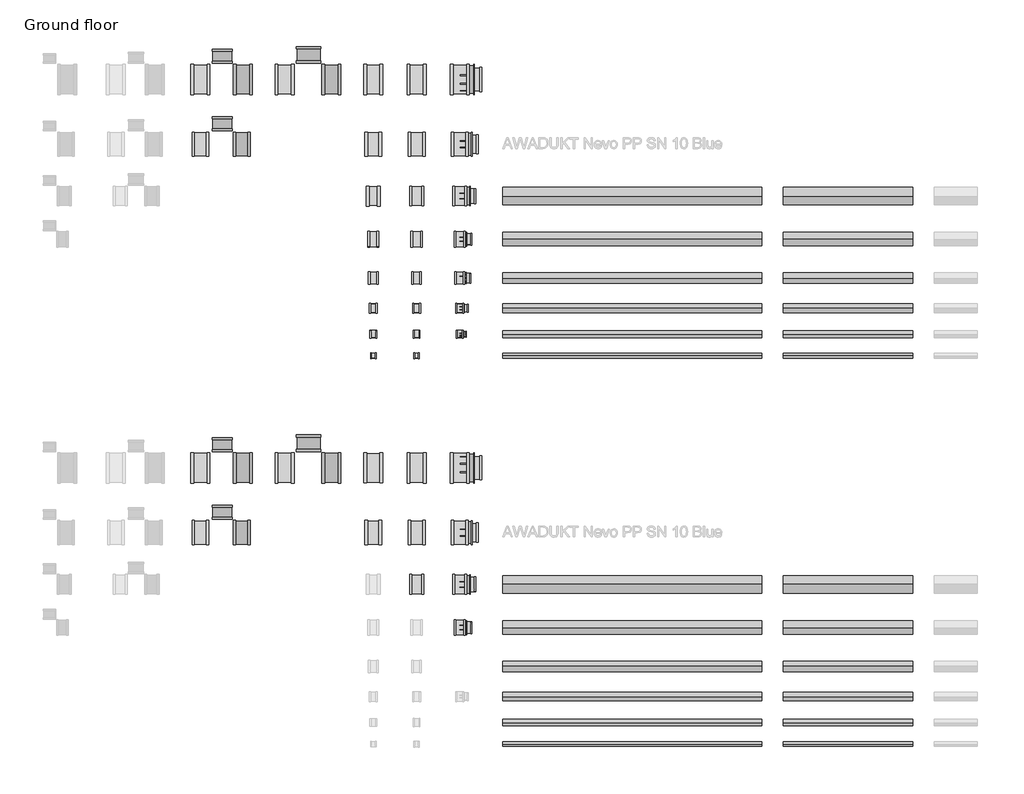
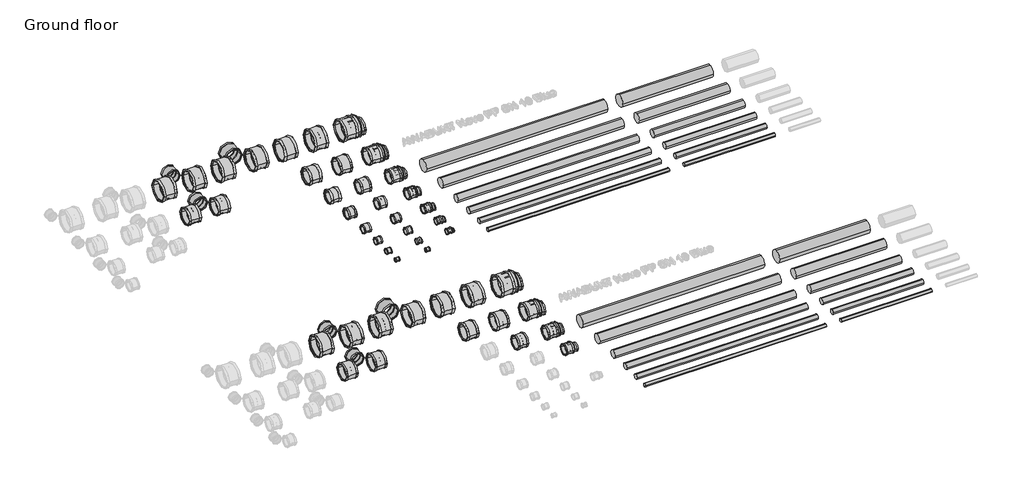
# One storey, part 5 of 14: 61 pipe fittings, 24 pipe segments.
"""IFC4 building model written with IfcOpenShell, lengths in millimetres."""

from ifc_helpers import new_model, si_unit, point, frame, frame_2d, origin, origin_2d, place, context, project, spatial, circle_curve, trimmed, segment, composite_curve, outline, extrude, transform, mapped, element, save
from components import pipe_fitting_e5a81f0f, pipe_fitting_366f8f33, pipe_fitting_9bc79c39, pipe_fitting_2c23b5e5, pipe_fitting_3dc9645f, pipe_fitting_b5a722ff, pipe_fitting_a818c1c7, blue_2b39e290, blue_a7021721, blue_93814ad8, blue_b31ea3b4, blue_9578d6e9, blue_be33dc46, blue_01f449b1, blue_d79e372c, blue_eca1b971, blue_b5fe305e, blue_81cd2d72, blue_9a590d53, blue_271a95f6, orange_5b8476dd, orange_85c0008d, pipe_fitting_0ebad727

model = new_model("IFC4")

# Units and contexts
model_context = context("Model", 3, world=origin())
ifc_project = project(units=[si_unit("LENGTHUNIT", "METRE", prefix="MILLI")], contexts=[model_context])

# Site, building, storey
site = spatial("IfcSite", under=ifc_project)
building = spatial("IfcBuilding", under=site)
storey = spatial("IfcBuildingStorey", under=building, Name="Ground floor", Elevation=0.0)

# Pipe fittings
placement = place(None, origin())
pipe_fitting_shape = pipe_fitting_e5a81f0f(model_context)
element("IfcPipeFitting", 1, ObjectType="AWADUKT PP Union DSM : Orange No PID", at=placement, inside=storey, context=model_context, shape_type="MappedRepresentation", body=[
    mapped(pipe_fitting_shape, transform((70200.0, 11700.0, 0.0), x_axis=(1.0, 0.0, 0.0), y_axis=(0.0, 1.0, 0.0), z_axis=(0.0, 0.0, 1.0))),
])
pipe_fitting_2_shape = pipe_fitting_366f8f33(model_context)
element("IfcPipeFitting", 2, ObjectType="AWADUKT PP Union DSM : Blue No PID", at=placement, inside=storey, context=model_context, shape_type="MappedRepresentation", body=[
    mapped(pipe_fitting_2_shape, transform((64189.0, 6400.0, 0.0), x_axis=(1.0, 0.0, 0.0), y_axis=(0.0, 1.0, 0.0), z_axis=(0.0, 0.0, 1.0))),
])
element("IfcPipeFitting", 3, ObjectType="AWADUKT PP Union DSM : Blue No PID", at=placement, inside=storey, context=model_context, shape_type="MappedRepresentation", body=[
    mapped(pipe_fitting_2_shape, transform((66139.0, 6400.0, 0.0), x_axis=(1.0, 0.0, 0.0), y_axis=(0.0, 1.0, 0.0), z_axis=(0.0, 0.0, 1.0))),
])
element("IfcPipeFitting", 4, ObjectType="AWADUKT PP Union DSM : Blue No PID", at=placement, inside=storey, context=model_context, shape_type="MappedRepresentation", body=[
    mapped(pipe_fitting_2_shape, transform((65186.0, 6400.0, 0.0), x_axis=(-1.0, 0.0, 0.0), y_axis=(0.0, -1.0, 0.0), z_axis=(0.0, 0.0, 1.0))),
])
element("IfcPipeFitting", 5, ObjectType="AWADUKT PP Union DSM : Blue No PID", at=placement, inside=storey, context=model_context, shape_type="MappedRepresentation", body=[
    mapped(pipe_fitting_2_shape, transform((67236.0, 6400.0, 0.0), x_axis=(-1.0, 0.0, 0.0), y_axis=(0.0, -1.0, 0.0), z_axis=(0.0, 0.0, 1.0))),
])
element("IfcPipeFitting", 6, ObjectType="AWADUKT PP Union DSM : Blue No PID", at=placement, inside=storey, context=model_context, shape_type="MappedRepresentation", body=[
    mapped(pipe_fitting_2_shape, transform((70200.0, 6400.0, 0.0), x_axis=(1.0, 0.0, 0.0), y_axis=(0.0, 1.0, 0.0), z_axis=(0.0, 0.0, 1.0))),
])
element("IfcPipeFitting", 7, ObjectType="AWADUKT PP Union DSM : Blue No PID", at=placement, inside=storey, context=model_context, shape_type="MappedRepresentation", body=[
    mapped(pipe_fitting_shape, transform((70200.0, 2700.0, 0.0), x_axis=(1.0, 0.0, 0.0), y_axis=(0.0, 1.0, 0.0), z_axis=(0.0, 0.0, 1.0))),
])
pipe_fitting_3_shape = pipe_fitting_9bc79c39(model_context)
element("IfcPipeFitting", 8, ObjectType="AWADUKT PP Union DSM : Blue No PID", at=placement, inside=storey, context=model_context, shape_type="MappedRepresentation", body=[
    mapped(pipe_fitting_3_shape, transform((64700.0, 5370.0, 0.0), x_axis=(0.0, 1.0, 0.0), y_axis=(-1.0, 0.0, 0.0), z_axis=(0.0, 0.0, 1.0))),
])
element("IfcPipeFitting", 9, ObjectType="AWADUKT PP Union DSM : Blue No PID", at=placement, inside=storey, context=model_context, shape_type="MappedRepresentation", body=[
    mapped(pipe_fitting_3_shape, transform((64700.0, 6935.0, 0.0), x_axis=(0.0, 1.0, 0.0), y_axis=(-1.0, 0.0, 0.0), z_axis=(0.0, 0.0, 1.0))),
])
element("IfcPipeFitting", 10, ObjectType="AWADUKT PP Union DSM : Blue No PID", at=placement, inside=storey, context=model_context, shape_type="MappedRepresentation", body=[
    mapped(pipe_fitting_3_shape, transform((70200.0, 3700.0, 0.0), x_axis=(1.0, 0.0, 0.0), y_axis=(0.0, 1.0, 0.0), z_axis=(0.0, 0.0, 1.0))),
])
pipe_fitting_4_shape = pipe_fitting_2c23b5e5(model_context)
element("IfcPipeFitting", 11, ObjectType="AWADUKT PP Union DSM : Blue No PID", at=placement, inside=storey, context=model_context, shape_type="MappedRepresentation", body=[
    mapped(pipe_fitting_4_shape, transform((64189.0, 4900.0, 0.0), x_axis=(1.0, 0.0, 0.0), y_axis=(0.0, 1.0, 0.0), z_axis=(0.0, 0.0, 1.0))),
])
element("IfcPipeFitting", 12, ObjectType="AWADUKT PP Union DSM : Blue No PID", at=placement, inside=storey, context=model_context, shape_type="MappedRepresentation", body=[
    mapped(pipe_fitting_4_shape, transform((65160.0, 4900.0, 0.0), x_axis=(-1.0, 0.0, 0.0), y_axis=(0.0, -1.0, 0.0), z_axis=(0.0, 0.0, 1.0))),
])
element("IfcPipeFitting", 13, ObjectType="AWADUKT PP Union DSM : Blue No PID", at=placement, inside=storey, context=model_context, shape_type="MappedRepresentation", body=[
    mapped(pipe_fitting_4_shape, transform((66700.0, 6964.0, 0.0), x_axis=(0.0, 1.0, 0.0), y_axis=(-1.0, 0.0, 0.0), z_axis=(0.0, 0.0, 1.0))),
])
element("IfcPipeFitting", 14, ObjectType="AWADUKT PP Union DSM : Blue No PID", at=placement, inside=storey, context=model_context, shape_type="MappedRepresentation", body=[
    mapped(pipe_fitting_4_shape, transform((70200.0, 4900.0, 0.0), x_axis=(1.0, 0.0, 0.0), y_axis=(0.0, 1.0, 0.0), z_axis=(0.0, 0.0, 1.0))),
])
pipe_fitting_5_shape = pipe_fitting_3dc9645f(model_context)
element("IfcPipeFitting", 15, ObjectType="AWADUKT PP Union DSM : Orange No PID", at=placement, inside=storey, context=model_context, shape_type="MappedRepresentation", body=[
    mapped(pipe_fitting_5_shape, transform((70200.0, 9500.0, 0.0), x_axis=(1.0, 0.0, 0.0), y_axis=(0.0, 1.0, 0.0), z_axis=(0.0, 0.0, 1.0))),
])
pipe_fitting_6_shape = pipe_fitting_b5a722ff(model_context)
element("IfcPipeFitting", 16, ObjectType="AWADUKT PP Union DSM : Orange No PID", at=placement, inside=storey, context=model_context, shape_type="MappedRepresentation", body=[
    mapped(pipe_fitting_6_shape, transform((70200.0, 10100.0, 0.0), x_axis=(1.0, 0.0, 0.0), y_axis=(0.0, 1.0, 0.0), z_axis=(0.0, 0.0, 1.0))),
])
pipe_fitting_7_shape = pipe_fitting_a818c1c7(model_context)
element("IfcPipeFitting", 17, ObjectType="AWADUKT PP Union DSM : Orange No PID", at=placement, inside=storey, context=model_context, shape_type="MappedRepresentation", body=[
    mapped(pipe_fitting_7_shape, transform((70200.0, 10800.0, 0.0), x_axis=(1.0, 0.0, 0.0), y_axis=(0.0, 1.0, 0.0), z_axis=(0.0, 0.0, 1.0))),
])
element("IfcPipeFitting", 18, ObjectType="AWADUKT PP Union DSM : Orange No PID", at=placement, inside=storey, context=model_context, shape_type="MappedRepresentation", body=[
    mapped(pipe_fitting_3_shape, transform((64700.0, 14370.0, 0.0), x_axis=(0.0, 1.0, 0.0), y_axis=(-1.0, 0.0, 0.0), z_axis=(0.0, 0.0, 1.0))),
])
element("IfcPipeFitting", 19, ObjectType="AWADUKT PP Union DSM : Orange No PID", at=placement, inside=storey, context=model_context, shape_type="MappedRepresentation", body=[
    mapped(pipe_fitting_3_shape, transform((64700.0, 15935.0, 0.0), x_axis=(0.0, 1.0, 0.0), y_axis=(-1.0, 0.0, 0.0), z_axis=(0.0, 0.0, 1.0))),
])
element("IfcPipeFitting", 20, ObjectType="AWADUKT PP Union DSM : Orange No PID", at=placement, inside=storey, context=model_context, shape_type="MappedRepresentation", body=[
    mapped(pipe_fitting_3_shape, transform((70200.0, 12700.0, 0.0), x_axis=(1.0, 0.0, 0.0), y_axis=(0.0, 1.0, 0.0), z_axis=(0.0, 0.0, 1.0))),
])
element("IfcPipeFitting", 21, ObjectType="AWADUKT PP Union DSM : Orange No PID", at=placement, inside=storey, context=model_context, shape_type="MappedRepresentation", body=[
    mapped(pipe_fitting_4_shape, transform((64189.0, 13900.0, 0.0), x_axis=(1.0, 0.0, 0.0), y_axis=(0.0, 1.0, 0.0), z_axis=(0.0, 0.0, 1.0))),
])
element("IfcPipeFitting", 22, ObjectType="AWADUKT PP Union DSM : Orange No PID", at=placement, inside=storey, context=model_context, shape_type="MappedRepresentation", body=[
    mapped(pipe_fitting_4_shape, transform((65160.0, 13900.0, 0.0), x_axis=(-1.0, 0.0, 0.0), y_axis=(0.0, -1.0, 0.0), z_axis=(0.0, 0.0, 1.0))),
])
element("IfcPipeFitting", 23, ObjectType="AWADUKT PP Union DSM : Orange No PID", at=placement, inside=storey, context=model_context, shape_type="MappedRepresentation", body=[
    mapped(pipe_fitting_4_shape, transform((66700.0, 15964.0, 0.0), x_axis=(0.0, 1.0, 0.0), y_axis=(-1.0, 0.0, 0.0), z_axis=(0.0, 0.0, 1.0))),
])
element("IfcPipeFitting", 24, ObjectType="AWADUKT PP Union DSM : Orange No PID", at=placement, inside=storey, context=model_context, shape_type="MappedRepresentation", body=[
    mapped(pipe_fitting_4_shape, transform((70200.0, 13900.0, 0.0), x_axis=(1.0, 0.0, 0.0), y_axis=(0.0, 1.0, 0.0), z_axis=(0.0, 0.0, 1.0))),
])
element("IfcPipeFitting", 25, ObjectType="AWADUKT PP Union DSM : Orange No PID", at=placement, inside=storey, context=model_context, shape_type="MappedRepresentation", body=[
    mapped(pipe_fitting_2_shape, transform((64189.0, 15400.0, 0.0), x_axis=(1.0, 0.0, 0.0), y_axis=(0.0, 1.0, 0.0), z_axis=(0.0, 0.0, 1.0))),
])
element("IfcPipeFitting", 26, ObjectType="AWADUKT PP Union DSM : Orange No PID", at=placement, inside=storey, context=model_context, shape_type="MappedRepresentation", body=[
    mapped(pipe_fitting_2_shape, transform((66139.0, 15400.0, 0.0), x_axis=(1.0, 0.0, 0.0), y_axis=(0.0, 1.0, 0.0), z_axis=(0.0, 0.0, 1.0))),
])
element("IfcPipeFitting", 27, ObjectType="AWADUKT PP Union DSM : Orange No PID", at=placement, inside=storey, context=model_context, shape_type="MappedRepresentation", body=[
    mapped(pipe_fitting_2_shape, transform((65186.0, 15400.0, 0.0), x_axis=(-1.0, 0.0, 0.0), y_axis=(0.0, -1.0, 0.0), z_axis=(0.0, 0.0, 1.0))),
])
element("IfcPipeFitting", 28, ObjectType="AWADUKT PP Union DSM : Orange No PID", at=placement, inside=storey, context=model_context, shape_type="MappedRepresentation", body=[
    mapped(pipe_fitting_2_shape, transform((67236.0, 15400.0, 0.0), x_axis=(-1.0, 0.0, 0.0), y_axis=(0.0, -1.0, 0.0), z_axis=(0.0, 0.0, 1.0))),
])
element("IfcPipeFitting", 29, ObjectType="AWADUKT PP Union DSM : Orange No PID", at=placement, inside=storey, context=model_context, shape_type="MappedRepresentation", body=[
    mapped(pipe_fitting_2_shape, transform((70200.0, 15400.0, 0.0), x_axis=(1.0, 0.0, 0.0), y_axis=(0.0, 1.0, 0.0), z_axis=(0.0, 0.0, 1.0))),
])
element("IfcPipeFitting", 30, ObjectType="AWADUKT PP Union DSM : Blue", at=placement, inside=storey, context=model_context, shape_type="MappedRepresentation", body=[
    mapped(pipe_fitting_2_shape, transform((69200.0, 6400.0, 0.0), x_axis=(1.0, 0.0, 0.0), y_axis=(0.0, 1.0, 0.0), z_axis=(0.0, 0.0, 1.0))),
])
blue_shape = blue_2b39e290(model_context)
element("IfcPipeFitting", 31, ObjectType="AWADUKT PP Union USM : Blue", at=placement, inside=storey, context=model_context, shape_type="MappedRepresentation", body=[
    mapped(blue_shape, transform((68200.0, 6400.0, 0.0), x_axis=(1.0, 0.0, 0.0), y_axis=(0.0, 1.0, 0.0), z_axis=(0.0, 0.0, 1.0))),
])
blue_2_shape = blue_a7021721(model_context)
element("IfcPipeFitting", 32, ObjectType="AWADUKT PP Union USM : Blue", at=placement, inside=storey, context=model_context, shape_type="MappedRepresentation", body=[
    mapped(blue_2_shape, transform((68200.0, 4900.0, 0.0), x_axis=(1.0, 0.0, 0.0), y_axis=(0.0, 1.0, 0.0), z_axis=(0.0, 0.0, 1.0))),
])
blue_3_shape = blue_93814ad8(model_context)
element("IfcPipeFitting", 33, ObjectType="AWADUKT PP Transition : Blue", at=placement, inside=storey, context=model_context, shape_type="MappedRepresentation", body=[
    mapped(blue_3_shape, transform((70200.0, 2700.0, 0.0), x_axis=(1.0, 0.0, 0.0), y_axis=(0.0, 1.0, 0.0), z_axis=(0.0, 0.0, 1.0))),
])
blue_4_shape = blue_b31ea3b4(model_context)
element("IfcPipeFitting", 34, ObjectType="AWADUKT PP Transition : Blue", at=placement, inside=storey, context=model_context, shape_type="MappedRepresentation", body=[
    mapped(blue_4_shape, transform((70200.0, 3700.0, 0.0), x_axis=(1.0, 0.0, 0.0), y_axis=(0.0, 1.0, 0.0), z_axis=(0.0, 0.0, 1.0))),
])
blue_5_shape = blue_9578d6e9(model_context)
element("IfcPipeFitting", 35, ObjectType="AWADUKT PP Transition : Blue", at=placement, inside=storey, context=model_context, shape_type="MappedRepresentation", body=[
    mapped(blue_5_shape, transform((70200.0, 4900.0, 0.0), x_axis=(1.0, 0.0, 0.0), y_axis=(0.0, 1.0, 0.0), z_axis=(0.0, 0.0, 1.0))),
])
blue_6_shape = blue_be33dc46(model_context)
element("IfcPipeFitting", 36, ObjectType="AWADUKT PP Transition : Blue", at=placement, inside=storey, context=model_context, shape_type="MappedRepresentation", body=[
    mapped(blue_6_shape, transform((70200.0, 6400.0, 0.0), x_axis=(1.0, 0.0, 0.0), y_axis=(0.0, 1.0, 0.0), z_axis=(0.0, 0.0, 1.0))),
])
element("IfcPipeFitting", 37, ObjectType="AWADUKT PP Union DSM : Blue", at=placement, inside=storey, context=model_context, shape_type="MappedRepresentation", body=[
    mapped(pipe_fitting_3_shape, transform((69200.0, 3700.0, 0.0), x_axis=(1.0, 0.0, 0.0), y_axis=(0.0, 1.0, 0.0), z_axis=(0.0, 0.0, 1.0))),
])
element("IfcPipeFitting", 38, ObjectType="AWADUKT PP Union DSM : Blue", at=placement, inside=storey, context=model_context, shape_type="MappedRepresentation", body=[
    mapped(pipe_fitting_4_shape, transform((69200.0, 4900.0, 0.0), x_axis=(1.0, 0.0, 0.0), y_axis=(0.0, 1.0, 0.0), z_axis=(0.0, 0.0, 1.0))),
])
element("IfcPipeFitting", 39, ObjectType="AWADUKT PP Union DSM : Orange", at=placement, inside=storey, context=model_context, shape_type="MappedRepresentation", body=[
    mapped(pipe_fitting_2_shape, transform((69200.0, 15400.0, 0.0), x_axis=(1.0, 0.0, 0.0), y_axis=(0.0, 1.0, 0.0), z_axis=(0.0, 0.0, 1.0))),
])
element("IfcPipeFitting", 40, ObjectType="AWADUKT PP Transition : Orange", at=placement, inside=storey, context=model_context, shape_type="MappedRepresentation", body=[
    mapped(blue_3_shape, transform((70200.0, 11700.0, 0.0), x_axis=(1.0, 0.0, 0.0), y_axis=(0.0, 1.0, 0.0), z_axis=(0.0, 0.0, 1.0))),
])
element("IfcPipeFitting", 41, ObjectType="AWADUKT PP Union USM : Orange", at=placement, inside=storey, context=model_context, shape_type="MappedRepresentation", body=[
    mapped(blue_shape, transform((68200.0, 15400.0, 0.0), x_axis=(1.0, 0.0, 0.0), y_axis=(0.0, 1.0, 0.0), z_axis=(0.0, 0.0, 1.0))),
])
blue_7_shape = blue_01f449b1(model_context)
element("IfcPipeFitting", 42, ObjectType="AWADUKT PP Union USM : Orange", at=placement, inside=storey, context=model_context, shape_type="MappedRepresentation", body=[
    mapped(blue_7_shape, transform((68200.0, 9000.0, 0.0), x_axis=(1.0, 0.0, 0.0), y_axis=(0.0, 1.0, 0.0), z_axis=(0.0, 0.0, 1.0))),
])
blue_8_shape = blue_d79e372c(model_context)
element("IfcPipeFitting", 43, ObjectType="AWADUKT PP Union USM : Orange", at=placement, inside=storey, context=model_context, shape_type="MappedRepresentation", body=[
    mapped(blue_8_shape, transform((68200.0, 10100.0, 0.0), x_axis=(1.0, 0.0, 0.0), y_axis=(0.0, 1.0, 0.0), z_axis=(0.0, 0.0, 1.0))),
])
blue_9_shape = blue_eca1b971(model_context)
element("IfcPipeFitting", 44, ObjectType="AWADUKT PP Union USM : Orange", at=placement, inside=storey, context=model_context, shape_type="MappedRepresentation", body=[
    mapped(blue_9_shape, transform((68200.0, 10800.0, 0.0), x_axis=(1.0, 0.0, 0.0), y_axis=(0.0, 1.0, 0.0), z_axis=(0.0, 0.0, 1.0))),
])
blue_10_shape = blue_b5fe305e(model_context)
element("IfcPipeFitting", 45, ObjectType="AWADUKT PP Union USM : Orange", at=placement, inside=storey, context=model_context, shape_type="MappedRepresentation", body=[
    mapped(blue_10_shape, transform((68200.0, 11700.0, 0.0), x_axis=(1.0, 0.0, 0.0), y_axis=(0.0, 1.0, 0.0), z_axis=(0.0, 0.0, 1.0))),
])
blue_11_shape = blue_81cd2d72(model_context)
element("IfcPipeFitting", 46, ObjectType="AWADUKT PP Union USM : Orange", at=placement, inside=storey, context=model_context, shape_type="MappedRepresentation", body=[
    mapped(blue_11_shape, transform((68200.0, 12700.0, 0.0), x_axis=(1.0, 0.0, 0.0), y_axis=(0.0, 1.0, 0.0), z_axis=(0.0, 0.0, 1.0))),
])
element("IfcPipeFitting", 47, ObjectType="AWADUKT PP Union USM : Orange", at=placement, inside=storey, context=model_context, shape_type="MappedRepresentation", body=[
    mapped(blue_2_shape, transform((68200.0, 13900.0, 0.0), x_axis=(1.0, 0.0, 0.0), y_axis=(0.0, 1.0, 0.0), z_axis=(0.0, 0.0, 1.0))),
])
blue_12_shape = blue_9a590d53(model_context)
element("IfcPipeFitting", 48, ObjectType="AWADUKT PP Union USM : Orange", at=placement, inside=storey, context=model_context, shape_type="MappedRepresentation", body=[
    mapped(blue_12_shape, transform((68200.0, 9500.0, 0.0), x_axis=(1.0, 0.0, 0.0), y_axis=(0.0, 1.0, 0.0), z_axis=(0.0, 0.0, 1.0))),
])
blue_13_shape = blue_271a95f6(model_context)
element("IfcPipeFitting", 49, ObjectType="AWADUKT PP Transition : Orange", at=placement, inside=storey, context=model_context, shape_type="MappedRepresentation", body=[
    mapped(blue_13_shape, transform((70200.0, 10100.0, 0.0), x_axis=(1.0, 0.0, 0.0), y_axis=(0.0, 1.0, 0.0), z_axis=(0.0, 0.0, 1.0))),
])
orange_shape = orange_5b8476dd(model_context)
element("IfcPipeFitting", 50, ObjectType="AWADUKT PP Transition : Orange", at=placement, inside=storey, context=model_context, shape_type="MappedRepresentation", body=[
    mapped(orange_shape, transform((70200.0, 10800.0, 0.0), x_axis=(1.0, 0.0, 0.0), y_axis=(0.0, 1.0, 0.0), z_axis=(0.0, 0.0, 1.0))),
])
element("IfcPipeFitting", 51, ObjectType="AWADUKT PP Transition : Orange", at=placement, inside=storey, context=model_context, shape_type="MappedRepresentation", body=[
    mapped(blue_4_shape, transform((70200.0, 12700.0, 0.0), x_axis=(1.0, 0.0, 0.0), y_axis=(0.0, 1.0, 0.0), z_axis=(0.0, 0.0, 1.0))),
])
element("IfcPipeFitting", 52, ObjectType="AWADUKT PP Transition : Orange", at=placement, inside=storey, context=model_context, shape_type="MappedRepresentation", body=[
    mapped(blue_5_shape, transform((70200.0, 13900.0, 0.0), x_axis=(1.0, 0.0, 0.0), y_axis=(0.0, 1.0, 0.0), z_axis=(0.0, 0.0, 1.0))),
])
element("IfcPipeFitting", 53, ObjectType="AWADUKT PP Transition : Orange", at=placement, inside=storey, context=model_context, shape_type="MappedRepresentation", body=[
    mapped(blue_6_shape, transform((70200.0, 15400.0, 0.0), x_axis=(1.0, 0.0, 0.0), y_axis=(0.0, 1.0, 0.0), z_axis=(0.0, 0.0, 1.0))),
])
orange_2_shape = orange_85c0008d(model_context)
element("IfcPipeFitting", 54, ObjectType="AWADUKT PP Transition : Orange", at=placement, inside=storey, context=model_context, shape_type="MappedRepresentation", body=[
    mapped(orange_2_shape, transform((70200.0, 9500.0, 0.0), x_axis=(1.0, 0.0, 0.0), y_axis=(0.0, 1.0, 0.0), z_axis=(0.0, 0.0, 1.0))),
])
pipe_fitting_8_shape = pipe_fitting_0ebad727(model_context)
element("IfcPipeFitting", 55, ObjectType="AWADUKT PP Union DSM : Orange", at=placement, inside=storey, context=model_context, shape_type="MappedRepresentation", body=[
    mapped(pipe_fitting_8_shape, transform((69200.0, 9000.0, 0.0), x_axis=(1.0, 0.0, 0.0), y_axis=(0.0, 1.0, 0.0), z_axis=(0.0, 0.0, 1.0))),
])
element("IfcPipeFitting", 56, ObjectType="AWADUKT PP Union DSM : Orange", at=placement, inside=storey, context=model_context, shape_type="MappedRepresentation", body=[
    mapped(pipe_fitting_6_shape, transform((69200.0, 10100.0, 0.0), x_axis=(1.0, 0.0, 0.0), y_axis=(0.0, 1.0, 0.0), z_axis=(0.0, 0.0, 1.0))),
])
element("IfcPipeFitting", 57, ObjectType="AWADUKT PP Union DSM : Orange", at=placement, inside=storey, context=model_context, shape_type="MappedRepresentation", body=[
    mapped(pipe_fitting_7_shape, transform((69200.0, 10800.0, 0.0), x_axis=(1.0, 0.0, 0.0), y_axis=(0.0, 1.0, 0.0), z_axis=(0.0, 0.0, 1.0))),
])
element("IfcPipeFitting", 58, ObjectType="AWADUKT PP Union DSM : Orange", at=placement, inside=storey, context=model_context, shape_type="MappedRepresentation", body=[
    mapped(pipe_fitting_shape, transform((69200.0, 11700.0, 0.0), x_axis=(1.0, 0.0, 0.0), y_axis=(0.0, 1.0, 0.0), z_axis=(0.0, 0.0, 1.0))),
])
element("IfcPipeFitting", 59, ObjectType="AWADUKT PP Union DSM : Orange", at=placement, inside=storey, context=model_context, shape_type="MappedRepresentation", body=[
    mapped(pipe_fitting_3_shape, transform((69200.0, 12700.0, 0.0), x_axis=(1.0, 0.0, 0.0), y_axis=(0.0, 1.0, 0.0), z_axis=(0.0, 0.0, 1.0))),
])
element("IfcPipeFitting", 60, ObjectType="AWADUKT PP Union DSM : Orange", at=placement, inside=storey, context=model_context, shape_type="MappedRepresentation", body=[
    mapped(pipe_fitting_4_shape, transform((69200.0, 13900.0, 0.0), x_axis=(1.0, 0.0, 0.0), y_axis=(0.0, 1.0, 0.0), z_axis=(0.0, 0.0, 1.0))),
])
element("IfcPipeFitting", 61, ObjectType="AWADUKT PP Union DSM : Orange", at=placement, inside=storey, context=model_context, shape_type="MappedRepresentation", body=[
    mapped(pipe_fitting_5_shape, transform((69200.0, 9500.0, 0.0), x_axis=(1.0, 0.0, 0.0), y_axis=(0.0, 1.0, 0.0), z_axis=(0.0, 0.0, 1.0))),
])

# Pipe segments
element("IfcPipeSegment", 62, ObjectType="AWADUKT NevoPP SN10 Blue", at=placement, inside=storey, context=model_context, shape_type="SweptSolid", body=[
    extrude(outline(composite_curve([segment(trimmed(circle_curve(origin_2d(), 55.0), [point((-55.0, 0.0))], [point((0.0, 55.0))], False, "CARTESIAN"), True, "CONTINUOUS"), segment(trimmed(circle_curve(origin_2d(), 55.0), [point((0.0, 55.0))], [point((55.0, 0.0))], False, "CARTESIAN"), True, "CONTINUOUS"), segment(trimmed(circle_curve(origin_2d(), 55.0), [point((55.0, 0.0))], [point((0.0, -55.0))], False, "CARTESIAN"), True, "CONTINUOUS"), segment(trimmed(circle_curve(origin_2d(), 55.0), [point((0.0, -55.0))], [point((-55.0, 0.0))], False, "CARTESIAN"), True, "CONTINUOUS")], self_intersect=False)), frame((71200.0, 0.0, 0.0), z_axis=(1.0, 0.0, 0.0), x_axis=(0.0, 1.0, 0.0)), (0.0, 0.0, 1.0), 6000.0),
])
element("IfcPipeSegment", 63, ObjectType="AWADUKT NevoPP SN10 Blue", at=placement, inside=storey, context=model_context, shape_type="SweptSolid", body=[
    extrude(outline(composite_curve([segment(trimmed(circle_curve(frame_2d((500.0, 0.0)), 80.0), [point((420.0, 0.0))], [point((500.0, 80.0))], False, "CARTESIAN"), True, "CONTINUOUS"), segment(trimmed(circle_curve(frame_2d((500.0, 0.0)), 80.0), [point((500.0, 80.0))], [point((580.0, 0.0))], False, "CARTESIAN"), True, "CONTINUOUS"), segment(trimmed(circle_curve(frame_2d((500.0, 0.0)), 80.0), [point((580.0, 0.0))], [point((500.0, -80.0))], False, "CARTESIAN"), True, "CONTINUOUS"), segment(trimmed(circle_curve(frame_2d((500.0, 0.0)), 80.0), [point((500.0, -80.0))], [point((420.0, 0.0))], False, "CARTESIAN"), True, "CONTINUOUS")], self_intersect=False)), frame((71200.0, 0.0, 0.0), z_axis=(1.0, 0.0, 0.0), x_axis=(0.0, 1.0, 0.0)), (0.0, 0.0, 1.0), 6000.0),
])
element("IfcPipeSegment", 64, ObjectType="AWADUKT NevoPP SN10 Blue", at=placement, inside=storey, context=model_context, shape_type="SweptSolid", body=[
    extrude(outline(composite_curve([segment(trimmed(circle_curve(frame_2d((1100.0, 0.0)), 100.0), [point((1000.0, 0.0))], [point((1100.0, 100.0))], False, "CARTESIAN"), True, "CONTINUOUS"), segment(trimmed(circle_curve(frame_2d((1100.0, 0.0)), 100.0), [point((1100.0, 100.0))], [point((1200.0, 0.0))], False, "CARTESIAN"), True, "CONTINUOUS"), segment(trimmed(circle_curve(frame_2d((1100.0, 0.0)), 100.0), [point((1200.0, 0.0))], [point((1100.0, -100.0))], False, "CARTESIAN"), True, "CONTINUOUS"), segment(trimmed(circle_curve(frame_2d((1100.0, 0.0)), 100.0), [point((1100.0, -100.0))], [point((1000.0, 0.0))], False, "CARTESIAN"), True, "CONTINUOUS")], self_intersect=False)), frame((71200.0, 0.0, 0.0), z_axis=(1.0, 0.0, 0.0), x_axis=(0.0, 1.0, 0.0)), (0.0, 0.0, 1.0), 6000.0),
])
element("IfcPipeSegment", 65, ObjectType="AWADUKT NevoPP SN10 Blue", at=placement, inside=storey, context=model_context, shape_type="SweptSolid", body=[
    extrude(outline(composite_curve([segment(trimmed(circle_curve(frame_2d((1800.0, 0.0)), 125.0), [point((1675.0, 0.0))], [point((1800.0, 125.0))], False, "CARTESIAN"), True, "CONTINUOUS"), segment(trimmed(circle_curve(frame_2d((1800.0, 0.0)), 125.0), [point((1800.0, 125.0))], [point((1925.0, 0.0))], False, "CARTESIAN"), True, "CONTINUOUS"), segment(trimmed(circle_curve(frame_2d((1800.0, 0.0)), 125.0), [point((1925.0, 0.0))], [point((1800.0, -125.0))], False, "CARTESIAN"), True, "CONTINUOUS"), segment(trimmed(circle_curve(frame_2d((1800.0, 0.0)), 125.0), [point((1800.0, -125.0))], [point((1675.0, 0.0))], False, "CARTESIAN"), True, "CONTINUOUS")], self_intersect=False)), frame((71200.0, 0.0, 0.0), z_axis=(1.0, 0.0, 0.0), x_axis=(0.0, 1.0, 0.0)), (0.0, 0.0, 1.0), 6000.0),
])
element("IfcPipeSegment", 66, ObjectType="AWADUKT NevoPP SN10 Blue", at=placement, inside=storey, context=model_context, shape_type="SweptSolid", body=[
    extrude(outline(composite_curve([segment(trimmed(circle_curve(frame_2d((2700.0, 0.0)), 157.5), [point((2542.5, 0.0))], [point((2700.0, 157.5))], False, "CARTESIAN"), True, "CONTINUOUS"), segment(trimmed(circle_curve(frame_2d((2700.0, 0.0)), 157.5), [point((2700.0, 157.5))], [point((2857.5, 0.0))], False, "CARTESIAN"), True, "CONTINUOUS"), segment(trimmed(circle_curve(frame_2d((2700.0, 0.0)), 157.5), [point((2857.5, 0.0))], [point((2700.0, -157.5))], False, "CARTESIAN"), True, "CONTINUOUS"), segment(trimmed(circle_curve(frame_2d((2700.0, 0.0)), 157.5), [point((2700.0, -157.5))], [point((2542.5, 0.0))], False, "CARTESIAN"), True, "CONTINUOUS")], self_intersect=False)), frame((71200.0, 0.0, 0.0), z_axis=(1.0, 0.0, 0.0), x_axis=(0.0, 1.0, 0.0)), (0.0, 0.0, 1.0), 6000.0),
])
element("IfcPipeSegment", 67, ObjectType="AWADUKT NevoPP SN10 Blue", at=placement, inside=storey, context=model_context, shape_type="SweptSolid", body=[
    extrude(outline(composite_curve([segment(trimmed(circle_curve(frame_2d((3700.0, 0.0)), 200.0), [point((3500.0, 0.0))], [point((3700.0, 200.0))], False, "CARTESIAN"), True, "CONTINUOUS"), segment(trimmed(circle_curve(frame_2d((3700.0, 0.0)), 200.0), [point((3700.0, 200.0))], [point((3900.0, 0.0))], False, "CARTESIAN"), True, "CONTINUOUS"), segment(trimmed(circle_curve(frame_2d((3700.0, 0.0)), 200.0), [point((3900.0, 0.0))], [point((3700.0, -200.0))], False, "CARTESIAN"), True, "CONTINUOUS"), segment(trimmed(circle_curve(frame_2d((3700.0, 0.0)), 200.0), [point((3700.0, -200.0))], [point((3500.0, 0.0))], False, "CARTESIAN"), True, "CONTINUOUS")], self_intersect=False)), frame((71200.0, 0.0, 0.0), z_axis=(1.0, 0.0, 0.0), x_axis=(0.0, 1.0, 0.0)), (0.0, 0.0, 1.0), 6000.0),
])
element("IfcPipeSegment", 68, ObjectType="AWADUKT NevoPP SN10 Blue", at=placement, inside=storey, context=model_context, shape_type="SweptSolid", body=[
    extrude(outline(composite_curve([segment(trimmed(circle_curve(origin_2d(), 55.0), [point((-55.0, 0.0))], [point((0.0, 55.0))], False, "CARTESIAN"), True, "CONTINUOUS"), segment(trimmed(circle_curve(origin_2d(), 55.0), [point((0.0, 55.0))], [point((55.0, 0.0))], False, "CARTESIAN"), True, "CONTINUOUS"), segment(trimmed(circle_curve(origin_2d(), 55.0), [point((55.0, 0.0))], [point((0.0, -55.0))], False, "CARTESIAN"), True, "CONTINUOUS"), segment(trimmed(circle_curve(origin_2d(), 55.0), [point((0.0, -55.0))], [point((-55.0, 0.0))], False, "CARTESIAN"), True, "CONTINUOUS")], self_intersect=False)), frame((77700.0, 0.0, 0.0), z_axis=(1.0, 0.0, 0.0), x_axis=(0.0, 1.0, 0.0)), (0.0, 0.0, 1.0), 3000.0),
])
element("IfcPipeSegment", 69, ObjectType="AWADUKT NevoPP SN10 Blue", at=placement, inside=storey, context=model_context, shape_type="SweptSolid", body=[
    extrude(outline(composite_curve([segment(trimmed(circle_curve(frame_2d((500.0, 0.0)), 80.0), [point((420.0, 0.0))], [point((500.0, 80.0))], False, "CARTESIAN"), True, "CONTINUOUS"), segment(trimmed(circle_curve(frame_2d((500.0, 0.0)), 80.0), [point((500.0, 80.0))], [point((580.0, 0.0))], False, "CARTESIAN"), True, "CONTINUOUS"), segment(trimmed(circle_curve(frame_2d((500.0, 0.0)), 80.0), [point((580.0, 0.0))], [point((500.0, -80.0))], False, "CARTESIAN"), True, "CONTINUOUS"), segment(trimmed(circle_curve(frame_2d((500.0, 0.0)), 80.0), [point((500.0, -80.0))], [point((420.0, 0.0))], False, "CARTESIAN"), True, "CONTINUOUS")], self_intersect=False)), frame((77700.0, 0.0, 0.0), z_axis=(1.0, 0.0, 0.0), x_axis=(0.0, 1.0, 0.0)), (0.0, 0.0, 1.0), 3000.0),
])
element("IfcPipeSegment", 70, ObjectType="AWADUKT NevoPP SN10 Blue", at=placement, inside=storey, context=model_context, shape_type="SweptSolid", body=[
    extrude(outline(composite_curve([segment(trimmed(circle_curve(frame_2d((1100.0, 0.0)), 100.0), [point((1000.0, 0.0))], [point((1100.0, 100.0))], False, "CARTESIAN"), True, "CONTINUOUS"), segment(trimmed(circle_curve(frame_2d((1100.0, 0.0)), 100.0), [point((1100.0, 100.0))], [point((1200.0, 0.0))], False, "CARTESIAN"), True, "CONTINUOUS"), segment(trimmed(circle_curve(frame_2d((1100.0, 0.0)), 100.0), [point((1200.0, 0.0))], [point((1100.0, -100.0))], False, "CARTESIAN"), True, "CONTINUOUS"), segment(trimmed(circle_curve(frame_2d((1100.0, 0.0)), 100.0), [point((1100.0, -100.0))], [point((1000.0, 0.0))], False, "CARTESIAN"), True, "CONTINUOUS")], self_intersect=False)), frame((77700.0, 0.0, 0.0), z_axis=(1.0, 0.0, 0.0), x_axis=(0.0, 1.0, 0.0)), (0.0, 0.0, 1.0), 3000.0),
])
element("IfcPipeSegment", 71, ObjectType="AWADUKT NevoPP SN10 Blue", at=placement, inside=storey, context=model_context, shape_type="SweptSolid", body=[
    extrude(outline(composite_curve([segment(trimmed(circle_curve(frame_2d((1800.0, 0.0)), 125.0), [point((1675.0, 0.0))], [point((1800.0, 125.0))], False, "CARTESIAN"), True, "CONTINUOUS"), segment(trimmed(circle_curve(frame_2d((1800.0, 0.0)), 125.0), [point((1800.0, 125.0))], [point((1925.0, 0.0))], False, "CARTESIAN"), True, "CONTINUOUS"), segment(trimmed(circle_curve(frame_2d((1800.0, 0.0)), 125.0), [point((1925.0, 0.0))], [point((1800.0, -125.0))], False, "CARTESIAN"), True, "CONTINUOUS"), segment(trimmed(circle_curve(frame_2d((1800.0, 0.0)), 125.0), [point((1800.0, -125.0))], [point((1675.0, 0.0))], False, "CARTESIAN"), True, "CONTINUOUS")], self_intersect=False)), frame((77700.0, 0.0, 0.0), z_axis=(1.0, 0.0, 0.0), x_axis=(0.0, 1.0, 0.0)), (0.0, 0.0, 1.0), 3000.0),
])
element("IfcPipeSegment", 72, ObjectType="AWADUKT NevoPP SN10 Blue", at=placement, inside=storey, context=model_context, shape_type="SweptSolid", body=[
    extrude(outline(composite_curve([segment(trimmed(circle_curve(frame_2d((2700.0, 0.0)), 157.5), [point((2542.5, 0.0))], [point((2700.0, 157.5))], False, "CARTESIAN"), True, "CONTINUOUS"), segment(trimmed(circle_curve(frame_2d((2700.0, 0.0)), 157.5), [point((2700.0, 157.5))], [point((2857.5, 0.0))], False, "CARTESIAN"), True, "CONTINUOUS"), segment(trimmed(circle_curve(frame_2d((2700.0, 0.0)), 157.5), [point((2857.5, 0.0))], [point((2700.0, -157.5))], False, "CARTESIAN"), True, "CONTINUOUS"), segment(trimmed(circle_curve(frame_2d((2700.0, 0.0)), 157.5), [point((2700.0, -157.5))], [point((2542.5, 0.0))], False, "CARTESIAN"), True, "CONTINUOUS")], self_intersect=False)), frame((77700.0, 0.0, 0.0), z_axis=(1.0, 0.0, 0.0), x_axis=(0.0, 1.0, 0.0)), (0.0, 0.0, 1.0), 3000.0),
])
element("IfcPipeSegment", 73, ObjectType="AWADUKT NevoPP SN10 Blue", at=placement, inside=storey, context=model_context, shape_type="SweptSolid", body=[
    extrude(outline(composite_curve([segment(trimmed(circle_curve(frame_2d((3700.0, 0.0)), 200.0), [point((3500.0, 0.0))], [point((3700.0, 200.0))], False, "CARTESIAN"), True, "CONTINUOUS"), segment(trimmed(circle_curve(frame_2d((3700.0, 0.0)), 200.0), [point((3700.0, 200.0))], [point((3900.0, 0.0))], False, "CARTESIAN"), True, "CONTINUOUS"), segment(trimmed(circle_curve(frame_2d((3700.0, 0.0)), 200.0), [point((3900.0, 0.0))], [point((3700.0, -200.0))], False, "CARTESIAN"), True, "CONTINUOUS"), segment(trimmed(circle_curve(frame_2d((3700.0, 0.0)), 200.0), [point((3700.0, -200.0))], [point((3500.0, 0.0))], False, "CARTESIAN"), True, "CONTINUOUS")], self_intersect=False)), frame((77700.0, 0.0, 0.0), z_axis=(1.0, 0.0, 0.0), x_axis=(0.0, 1.0, 0.0)), (0.0, 0.0, 1.0), 3000.0),
])
element("IfcPipeSegment", 74, ObjectType="AWADUKT NevoPP SN10", at=placement, inside=storey, context=model_context, shape_type="SweptSolid", body=[
    extrude(outline(composite_curve([segment(trimmed(circle_curve(frame_2d((9000.0, 0.0)), 55.0), [point((8945.0, 0.0))], [point((9000.0, 55.0))], False, "CARTESIAN"), True, "CONTINUOUS"), segment(trimmed(circle_curve(frame_2d((9000.0, 0.0)), 55.0), [point((9000.0, 55.0))], [point((9055.0, 0.0))], False, "CARTESIAN"), True, "CONTINUOUS"), segment(trimmed(circle_curve(frame_2d((9000.0, 0.0)), 55.0), [point((9055.0, 0.0))], [point((9000.0, -55.0))], False, "CARTESIAN"), True, "CONTINUOUS"), segment(trimmed(circle_curve(frame_2d((9000.0, 0.0)), 55.0), [point((9000.0, -55.0))], [point((8945.0, 0.0))], False, "CARTESIAN"), True, "CONTINUOUS")], self_intersect=False)), frame((71200.0, 0.0, 0.0), z_axis=(1.0, 0.0, 0.0), x_axis=(0.0, 1.0, 0.0)), (0.0, 0.0, 1.0), 6000.0),
])
element("IfcPipeSegment", 75, ObjectType="AWADUKT NevoPP SN10", at=placement, inside=storey, context=model_context, shape_type="SweptSolid", body=[
    extrude(outline(composite_curve([segment(trimmed(circle_curve(frame_2d((9500.0, 0.0)), 80.0), [point((9420.0, 0.0))], [point((9500.0, 80.0))], False, "CARTESIAN"), True, "CONTINUOUS"), segment(trimmed(circle_curve(frame_2d((9500.0, 0.0)), 80.0), [point((9500.0, 80.0))], [point((9580.0, 0.0))], False, "CARTESIAN"), True, "CONTINUOUS"), segment(trimmed(circle_curve(frame_2d((9500.0, 0.0)), 80.0), [point((9580.0, 0.0))], [point((9500.0, -80.0))], False, "CARTESIAN"), True, "CONTINUOUS"), segment(trimmed(circle_curve(frame_2d((9500.0, 0.0)), 80.0), [point((9500.0, -80.0))], [point((9420.0, 0.0))], False, "CARTESIAN"), True, "CONTINUOUS")], self_intersect=False)), frame((71200.0, 0.0, 0.0), z_axis=(1.0, 0.0, 0.0), x_axis=(0.0, 1.0, 0.0)), (0.0, 0.0, 1.0), 6000.0),
])
element("IfcPipeSegment", 76, ObjectType="AWADUKT NevoPP SN10", at=placement, inside=storey, context=model_context, shape_type="SweptSolid", body=[
    extrude(outline(composite_curve([segment(trimmed(circle_curve(frame_2d((10100.0, 0.0)), 100.0), [point((10000.0, 0.0))], [point((10100.0, 100.0))], False, "CARTESIAN"), True, "CONTINUOUS"), segment(trimmed(circle_curve(frame_2d((10100.0, 0.0)), 100.0), [point((10100.0, 100.0))], [point((10200.0, 0.0))], False, "CARTESIAN"), True, "CONTINUOUS"), segment(trimmed(circle_curve(frame_2d((10100.0, 0.0)), 100.0), [point((10200.0, 0.0))], [point((10100.0, -100.0))], False, "CARTESIAN"), True, "CONTINUOUS"), segment(trimmed(circle_curve(frame_2d((10100.0, 0.0)), 100.0), [point((10100.0, -100.0))], [point((10000.0, 0.0))], False, "CARTESIAN"), True, "CONTINUOUS")], self_intersect=False)), frame((71200.0, 0.0, 0.0), z_axis=(1.0, 0.0, 0.0), x_axis=(0.0, 1.0, 0.0)), (0.0, 0.0, 1.0), 6000.0),
])
element("IfcPipeSegment", 77, ObjectType="AWADUKT NevoPP SN10", at=placement, inside=storey, context=model_context, shape_type="SweptSolid", body=[
    extrude(outline(composite_curve([segment(trimmed(circle_curve(frame_2d((10800.0, 0.0)), 125.0), [point((10675.0, 0.0))], [point((10800.0, 125.0))], False, "CARTESIAN"), True, "CONTINUOUS"), segment(trimmed(circle_curve(frame_2d((10800.0, 0.0)), 125.0), [point((10800.0, 125.0))], [point((10925.0, 0.0))], False, "CARTESIAN"), True, "CONTINUOUS"), segment(trimmed(circle_curve(frame_2d((10800.0, 0.0)), 125.0), [point((10925.0, 0.0))], [point((10800.0, -125.0))], False, "CARTESIAN"), True, "CONTINUOUS"), segment(trimmed(circle_curve(frame_2d((10800.0, 0.0)), 125.0), [point((10800.0, -125.0))], [point((10675.0, 0.0))], False, "CARTESIAN"), True, "CONTINUOUS")], self_intersect=False)), frame((71200.0, 0.0, 0.0), z_axis=(1.0, 0.0, 0.0), x_axis=(0.0, 1.0, 0.0)), (0.0, 0.0, 1.0), 6000.0),
])
element("IfcPipeSegment", 78, ObjectType="AWADUKT NevoPP SN10", at=placement, inside=storey, context=model_context, shape_type="SweptSolid", body=[
    extrude(outline(composite_curve([segment(trimmed(circle_curve(frame_2d((11700.0, 0.0)), 157.5), [point((11542.5, 0.0))], [point((11700.0, 157.5))], False, "CARTESIAN"), True, "CONTINUOUS"), segment(trimmed(circle_curve(frame_2d((11700.0, 0.0)), 157.5), [point((11700.0, 157.5))], [point((11857.5, 0.0))], False, "CARTESIAN"), True, "CONTINUOUS"), segment(trimmed(circle_curve(frame_2d((11700.0, 0.0)), 157.5), [point((11857.5, 0.0))], [point((11700.0, -157.5))], False, "CARTESIAN"), True, "CONTINUOUS"), segment(trimmed(circle_curve(frame_2d((11700.0, 0.0)), 157.5), [point((11700.0, -157.5))], [point((11542.5, 0.0))], False, "CARTESIAN"), True, "CONTINUOUS")], self_intersect=False)), frame((71200.0, 0.0, 0.0), z_axis=(1.0, 0.0, 0.0), x_axis=(0.0, 1.0, 0.0)), (0.0, 0.0, 1.0), 6000.0),
])
element("IfcPipeSegment", 79, ObjectType="AWADUKT NevoPP SN10", at=placement, inside=storey, context=model_context, shape_type="SweptSolid", body=[
    extrude(outline(composite_curve([segment(trimmed(circle_curve(frame_2d((12700.0, 0.0)), 200.0), [point((12500.0, 0.0))], [point((12700.0, 200.0))], False, "CARTESIAN"), True, "CONTINUOUS"), segment(trimmed(circle_curve(frame_2d((12700.0, 0.0)), 200.0), [point((12700.0, 200.0))], [point((12900.0, 0.0))], False, "CARTESIAN"), True, "CONTINUOUS"), segment(trimmed(circle_curve(frame_2d((12700.0, 0.0)), 200.0), [point((12900.0, 0.0))], [point((12700.0, -200.0))], False, "CARTESIAN"), True, "CONTINUOUS"), segment(trimmed(circle_curve(frame_2d((12700.0, 0.0)), 200.0), [point((12700.0, -200.0))], [point((12500.0, 0.0))], False, "CARTESIAN"), True, "CONTINUOUS")], self_intersect=False)), frame((71200.0, 0.0, 0.0), z_axis=(1.0, 0.0, 0.0), x_axis=(0.0, 1.0, 0.0)), (0.0, 0.0, 1.0), 6000.0),
])
element("IfcPipeSegment", 80, ObjectType="AWADUKT NevoPP SN10", at=placement, inside=storey, context=model_context, shape_type="SweptSolid", body=[
    extrude(outline(composite_curve([segment(trimmed(circle_curve(frame_2d((9000.0, 0.0)), 55.0), [point((8945.0, 0.0))], [point((9000.0, 55.0))], False, "CARTESIAN"), True, "CONTINUOUS"), segment(trimmed(circle_curve(frame_2d((9000.0, 0.0)), 55.0), [point((9000.0, 55.0))], [point((9055.0, 0.0))], False, "CARTESIAN"), True, "CONTINUOUS"), segment(trimmed(circle_curve(frame_2d((9000.0, 0.0)), 55.0), [point((9055.0, 0.0))], [point((9000.0, -55.0))], False, "CARTESIAN"), True, "CONTINUOUS"), segment(trimmed(circle_curve(frame_2d((9000.0, 0.0)), 55.0), [point((9000.0, -55.0))], [point((8945.0, 0.0))], False, "CARTESIAN"), True, "CONTINUOUS")], self_intersect=False)), frame((77700.0, 0.0, 0.0), z_axis=(1.0, 0.0, 0.0), x_axis=(0.0, 1.0, 0.0)), (0.0, 0.0, 1.0), 3000.0),
])
element("IfcPipeSegment", 81, ObjectType="AWADUKT NevoPP SN10", at=placement, inside=storey, context=model_context, shape_type="SweptSolid", body=[
    extrude(outline(composite_curve([segment(trimmed(circle_curve(frame_2d((9500.0, 0.0)), 80.0), [point((9420.0, 0.0))], [point((9500.0, 80.0))], False, "CARTESIAN"), True, "CONTINUOUS"), segment(trimmed(circle_curve(frame_2d((9500.0, 0.0)), 80.0), [point((9500.0, 80.0))], [point((9580.0, 0.0))], False, "CARTESIAN"), True, "CONTINUOUS"), segment(trimmed(circle_curve(frame_2d((9500.0, 0.0)), 80.0), [point((9580.0, 0.0))], [point((9500.0, -80.0))], False, "CARTESIAN"), True, "CONTINUOUS"), segment(trimmed(circle_curve(frame_2d((9500.0, 0.0)), 80.0), [point((9500.0, -80.0))], [point((9420.0, 0.0))], False, "CARTESIAN"), True, "CONTINUOUS")], self_intersect=False)), frame((77700.0, 0.0, 0.0), z_axis=(1.0, 0.0, 0.0), x_axis=(0.0, 1.0, 0.0)), (0.0, 0.0, 1.0), 3000.0),
])
element("IfcPipeSegment", 82, ObjectType="AWADUKT NevoPP SN10", at=placement, inside=storey, context=model_context, shape_type="SweptSolid", body=[
    extrude(outline(composite_curve([segment(trimmed(circle_curve(frame_2d((10100.0, 0.0)), 100.0), [point((10000.0, 0.0))], [point((10100.0, 100.0))], False, "CARTESIAN"), True, "CONTINUOUS"), segment(trimmed(circle_curve(frame_2d((10100.0, 0.0)), 100.0), [point((10100.0, 100.0))], [point((10200.0, 0.0))], False, "CARTESIAN"), True, "CONTINUOUS"), segment(trimmed(circle_curve(frame_2d((10100.0, 0.0)), 100.0), [point((10200.0, 0.0))], [point((10100.0, -100.0))], False, "CARTESIAN"), True, "CONTINUOUS"), segment(trimmed(circle_curve(frame_2d((10100.0, 0.0)), 100.0), [point((10100.0, -100.0))], [point((10000.0, 0.0))], False, "CARTESIAN"), True, "CONTINUOUS")], self_intersect=False)), frame((77700.0, 0.0, 0.0), z_axis=(1.0, 0.0, 0.0), x_axis=(0.0, 1.0, 0.0)), (0.0, 0.0, 1.0), 3000.0),
])
element("IfcPipeSegment", 83, ObjectType="AWADUKT NevoPP SN10", at=placement, inside=storey, context=model_context, shape_type="SweptSolid", body=[
    extrude(outline(composite_curve([segment(trimmed(circle_curve(frame_2d((10800.0, 0.0)), 125.0), [point((10675.0, 0.0))], [point((10800.0, 125.0))], False, "CARTESIAN"), True, "CONTINUOUS"), segment(trimmed(circle_curve(frame_2d((10800.0, 0.0)), 125.0), [point((10800.0, 125.0))], [point((10925.0, 0.0))], False, "CARTESIAN"), True, "CONTINUOUS"), segment(trimmed(circle_curve(frame_2d((10800.0, 0.0)), 125.0), [point((10925.0, 0.0))], [point((10800.0, -125.0))], False, "CARTESIAN"), True, "CONTINUOUS"), segment(trimmed(circle_curve(frame_2d((10800.0, 0.0)), 125.0), [point((10800.0, -125.0))], [point((10675.0, 0.0))], False, "CARTESIAN"), True, "CONTINUOUS")], self_intersect=False)), frame((77700.0, 0.0, 0.0), z_axis=(1.0, 0.0, 0.0), x_axis=(0.0, 1.0, 0.0)), (0.0, 0.0, 1.0), 3000.0),
])
element("IfcPipeSegment", 84, ObjectType="AWADUKT NevoPP SN10", at=placement, inside=storey, context=model_context, shape_type="SweptSolid", body=[
    extrude(outline(composite_curve([segment(trimmed(circle_curve(frame_2d((11700.0, 0.0)), 157.5), [point((11542.5, 0.0))], [point((11700.0, 157.5))], False, "CARTESIAN"), True, "CONTINUOUS"), segment(trimmed(circle_curve(frame_2d((11700.0, 0.0)), 157.5), [point((11700.0, 157.5))], [point((11857.5, 0.0))], False, "CARTESIAN"), True, "CONTINUOUS"), segment(trimmed(circle_curve(frame_2d((11700.0, 0.0)), 157.5), [point((11857.5, 0.0))], [point((11700.0, -157.5))], False, "CARTESIAN"), True, "CONTINUOUS"), segment(trimmed(circle_curve(frame_2d((11700.0, 0.0)), 157.5), [point((11700.0, -157.5))], [point((11542.5, 0.0))], False, "CARTESIAN"), True, "CONTINUOUS")], self_intersect=False)), frame((77700.0, 0.0, 0.0), z_axis=(1.0, 0.0, 0.0), x_axis=(0.0, 1.0, 0.0)), (0.0, 0.0, 1.0), 3000.0),
])
element("IfcPipeSegment", 85, ObjectType="AWADUKT NevoPP SN10", at=placement, inside=storey, context=model_context, shape_type="SweptSolid", body=[
    extrude(outline(composite_curve([segment(trimmed(circle_curve(frame_2d((12700.0, 0.0)), 200.0), [point((12500.0, 0.0))], [point((12700.0, 200.0))], False, "CARTESIAN"), True, "CONTINUOUS"), segment(trimmed(circle_curve(frame_2d((12700.0, 0.0)), 200.0), [point((12700.0, 200.0))], [point((12900.0, 0.0))], False, "CARTESIAN"), True, "CONTINUOUS"), segment(trimmed(circle_curve(frame_2d((12700.0, 0.0)), 200.0), [point((12900.0, 0.0))], [point((12700.0, -200.0))], False, "CARTESIAN"), True, "CONTINUOUS"), segment(trimmed(circle_curve(frame_2d((12700.0, 0.0)), 200.0), [point((12700.0, -200.0))], [point((12500.0, 0.0))], False, "CARTESIAN"), True, "CONTINUOUS")], self_intersect=False)), frame((77700.0, 0.0, 0.0), z_axis=(1.0, 0.0, 0.0), x_axis=(0.0, 1.0, 0.0)), (0.0, 0.0, 1.0), 3000.0),
])

save(model, "model.ifc")
